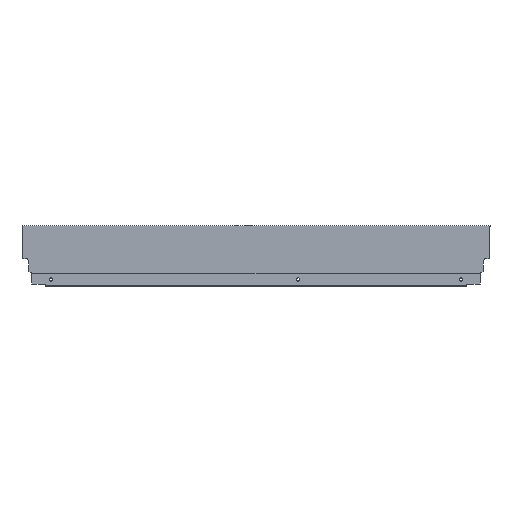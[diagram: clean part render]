
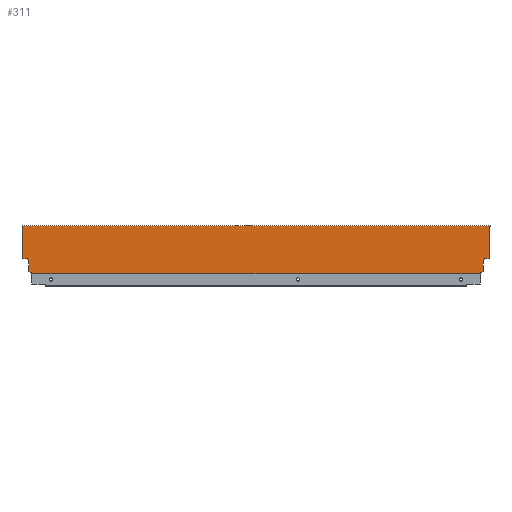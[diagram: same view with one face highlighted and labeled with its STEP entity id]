
A CAD part, top view. The second image highlights one B-rep face of the part: STEP entity #311.
In plain terms, the highlighted planar face has unit normal (0, 0, 1).
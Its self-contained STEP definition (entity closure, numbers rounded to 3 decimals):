
#4 = VERTEX_POINT ( 'NONE', #577 ) ;
#9 = VERTEX_POINT ( 'NONE', #575 ) ;
#43 = ORIENTED_EDGE ( 'NONE', *, *, #1090, .F. ) ;
#44 = ORIENTED_EDGE ( 'NONE', *, *, #1092, .F. ) ;
#55 = ORIENTED_EDGE ( 'NONE', *, *, #1085, .F. ) ;
#56 = ORIENTED_EDGE ( 'NONE', *, *, #1086, .F. ) ;
#70 = ORIENTED_EDGE ( 'NONE', *, *, #1095, .F. ) ;
#73 = EDGE_LOOP ( 'NONE', ( #136, #140, #190, #117, #70, #211, #145, #137, #80, #88, #143, #55, #44, #43, #111, #123, #56, #78 ) ) ;
#78 = ORIENTED_EDGE ( 'NONE', *, *, #1084, .F. ) ;
#80 = ORIENTED_EDGE ( 'NONE', *, *, #1089, .F. ) ;
#88 = ORIENTED_EDGE ( 'NONE', *, *, #1099, .T. ) ;
#111 = ORIENTED_EDGE ( 'NONE', *, *, #1088, .F. ) ;
#117 = ORIENTED_EDGE ( 'NONE', *, *, #1096, .T. ) ;
#123 = ORIENTED_EDGE ( 'NONE', *, *, #1043, .F. ) ;
#136 = ORIENTED_EDGE ( 'NONE', *, *, #1093, .F. ) ;
#137 = ORIENTED_EDGE ( 'NONE', *, *, #1094, .F. ) ;
#140 = ORIENTED_EDGE ( 'NONE', *, *, #1098, .F. ) ;
#143 = ORIENTED_EDGE ( 'NONE', *, *, #1087, .F. ) ;
#145 = ORIENTED_EDGE ( 'NONE', *, *, #1091, .F. ) ;
#190 = ORIENTED_EDGE ( 'NONE', *, *, #1097, .T. ) ;
#211 = ORIENTED_EDGE ( 'NONE', *, *, #1102, .F. ) ;
#311 = ADVANCED_FACE ( 'NONE', ( #357 ), #536, .T. ) ;
#357 = FACE_OUTER_BOUND ( 'NONE', #73, .T. ) ;
#526 = DIRECTION ( 'NONE',  ( 1., 0., 0. ) ) ;
#527 = DIRECTION ( 'NONE',  ( 0., 0., 1. ) ) ;
#533 = CARTESIAN_POINT ( 'NONE',  ( -663., 0., 7.5 ) ) ;
#536 = PLANE ( 'NONE',  #1182 ) ;
#575 = CARTESIAN_POINT ( 'NONE',  ( 0., 21.2, 7.5 ) ) ;
#577 = CARTESIAN_POINT ( 'NONE',  ( 0., 66.5, 7.5 ) ) ;
#592 = VERTEX_POINT ( 'NONE', #1292 ) ;
#601 = VERTEX_POINT ( 'NONE', #1301 ) ;
#615 = VERTEX_POINT ( 'NONE', #1315 ) ;
#618 = VERTEX_POINT ( 'NONE', #1318 ) ;
#630 = VERTEX_POINT ( 'NONE', #1330 ) ;
#634 = VERTEX_POINT ( 'NONE', #1334 ) ;
#635 = VERTEX_POINT ( 'NONE', #1335 ) ;
#636 = VERTEX_POINT ( 'NONE', #1336 ) ;
#637 = VERTEX_POINT ( 'NONE', #1337 ) ;
#645 = VERTEX_POINT ( 'NONE', #1345 ) ;
#649 = VERTEX_POINT ( 'NONE', #1349 ) ;
#651 = VERTEX_POINT ( 'NONE', #1351 ) ;
#653 = VERTEX_POINT ( 'NONE', #1353 ) ;
#656 = VERTEX_POINT ( 'NONE', #1355 ) ;
#657 = VERTEX_POINT ( 'NONE', #1356 ) ;
#659 = VERTEX_POINT ( 'NONE', #1358 ) ;
#755 = LINE ( 'NONE', #1491, #797 ) ;
#768 = VECTOR ( 'NONE', #1504, 1000. ) ;
#786 = VECTOR ( 'NONE', #1496, 1000. ) ;
#795 = VECTOR ( 'NONE', #1494, 1000. ) ;
#796 = LINE ( 'NONE', #1493, #795 ) ;
#797 = VECTOR ( 'NONE', #1492, 1000. ) ;
#816 = LINE ( 'NONE', #1499, #839 ) ;
#833 = VECTOR ( 'NONE', #1502, 1000. ) ;
#839 = VECTOR ( 'NONE', #1500, 1000. ) ;
#840 = VECTOR ( 'NONE', #1498, 1000. ) ;
#841 = LINE ( 'NONE', #1501, #833 ) ;
#842 = LINE ( 'NONE', #1497, #840 ) ;
#845 = VECTOR ( 'NONE', #1522, 1000. ) ;
#851 = VECTOR ( 'NONE', #1515, 1000. ) ;
#852 = LINE ( 'NONE', #1514, #851 ) ;
#853 = VECTOR ( 'NONE', #1513, 1000. ) ;
#854 = LINE ( 'NONE', #1512, #853 ) ;
#856 = VECTOR ( 'NONE', #1511, 1000. ) ;
#857 = VECTOR ( 'NONE', #1509, 1000. ) ;
#858 = LINE ( 'NONE', #1508, #857 ) ;
#859 = LINE ( 'NONE', #1495, #786 ) ;
#860 = VECTOR ( 'NONE', #1506, 1000. ) ;
#861 = LINE ( 'NONE', #1505, #860 ) ;
#862 = LINE ( 'NONE', #1521, #845 ) ;
#918 = VECTOR ( 'NONE', #1488, 1000. ) ;
#919 = LINE ( 'NONE', #1487, #918 ) ;
#920 = VECTOR ( 'NONE', #1486, 1000. ) ;
#921 = LINE ( 'NONE', #1485, #920 ) ;
#923 = VECTOR ( 'NONE', #1484, 1000. ) ;
#929 = LINE ( 'NONE', #1503, #856 ) ;
#930 = VECTOR ( 'NONE', #1490, 1000. ) ;
#931 = LINE ( 'NONE', #1489, #930 ) ;
#932 = LINE ( 'NONE', #1483, #768 ) ;
#942 = LINE ( 'NONE', #1477, #923 ) ;
#1005 = LINE ( 'NONE', #1386, #1012 ) ;
#1012 = VECTOR ( 'NONE', #1397, 1000. ) ;
#1043 = EDGE_CURVE ( 'NONE', #4, #9, #1005, .T. ) ;
#1084 = EDGE_CURVE ( 'NONE', #653, #601, #942, .T. ) ;
#1085 = EDGE_CURVE ( 'NONE', #659, #651, #921, .T. ) ;
#1086 = EDGE_CURVE ( 'NONE', #601, #4, #919, .T. ) ;
#1087 = EDGE_CURVE ( 'NONE', #651, #656, #931, .T. ) ;
#1088 = EDGE_CURVE ( 'NONE', #9, #592, #755, .T. ) ;
#1089 = EDGE_CURVE ( 'NONE', #636, #635, #796, .T. ) ;
#1090 = EDGE_CURVE ( 'NONE', #592, #630, #859, .T. ) ;
#1091 = EDGE_CURVE ( 'NONE', #645, #657, #842, .T. ) ;
#1092 = EDGE_CURVE ( 'NONE', #630, #659, #816, .T. ) ;
#1093 = EDGE_CURVE ( 'NONE', #615, #653, #841, .T. ) ;
#1094 = EDGE_CURVE ( 'NONE', #635, #645, #932, .T. ) ;
#1095 = EDGE_CURVE ( 'NONE', #649, #618, #861, .T. ) ;
#1096 = EDGE_CURVE ( 'NONE', #637, #618, #858, .T. ) ;
#1097 = EDGE_CURVE ( 'NONE', #634, #637, #929, .T. ) ;
#1098 = EDGE_CURVE ( 'NONE', #634, #615, #854, .T. ) ;
#1099 = EDGE_CURVE ( 'NONE', #636, #656, #852, .T. ) ;
#1102 = EDGE_CURVE ( 'NONE', #657, #649, #862, .T. ) ;
#1182 = AXIS2_PLACEMENT_3D ( 'NONE', #533, #527, #526 ) ;
#1292 = CARTESIAN_POINT ( 'NONE',  ( -7.06, 21.2, 7.5 ) ) ;
#1301 = CARTESIAN_POINT ( 'NONE',  ( 1., 66.5, 7.5 ) ) ;
#1315 = CARTESIAN_POINT ( 'NONE',  ( -664., 68., 7.5 ) ) ;
#1318 = CARTESIAN_POINT ( 'NONE',  ( -663., 21.2, 7.5 ) ) ;
#1330 = CARTESIAN_POINT ( 'NONE',  ( -8.9, 10.765, 7.5 ) ) ;
#1334 = CARTESIAN_POINT ( 'NONE',  ( -664., 66.5, 7.5 ) ) ;
#1335 = CARTESIAN_POINT ( 'NONE',  ( -649.996, 1.146, 7.5 ) ) ;
#1336 = CARTESIAN_POINT ( 'NONE',  ( -649.996, 0., 7.5 ) ) ;
#1337 = CARTESIAN_POINT ( 'NONE',  ( -663., 66.5, 7.5 ) ) ;
#1345 = CARTESIAN_POINT ( 'NONE',  ( -654.1, 2.64, 7.5 ) ) ;
#1349 = CARTESIAN_POINT ( 'NONE',  ( -655.94, 21.2, 7.5 ) ) ;
#1351 = CARTESIAN_POINT ( 'NONE',  ( -13.004, 1.146, 7.5 ) ) ;
#1353 = CARTESIAN_POINT ( 'NONE',  ( 1., 68., 7.5 ) ) ;
#1355 = CARTESIAN_POINT ( 'NONE',  ( -13.004, 0., 7.5 ) ) ;
#1356 = CARTESIAN_POINT ( 'NONE',  ( -654.1, 10.765, 7.5 ) ) ;
#1358 = CARTESIAN_POINT ( 'NONE',  ( -8.9, 2.64, 7.5 ) ) ;
#1386 = CARTESIAN_POINT ( 'NONE',  ( 0., 0., 7.5 ) ) ;
#1397 = DIRECTION ( 'NONE',  ( 0., -1., 0. ) ) ;
#1477 = CARTESIAN_POINT ( 'NONE',  ( 1., 68., 7.5 ) ) ;
#1483 = CARTESIAN_POINT ( 'NONE',  ( -654.1, 2.64, 7.5 ) ) ;
#1484 = DIRECTION ( 'NONE',  ( 0., -1., 0. ) ) ;
#1485 = CARTESIAN_POINT ( 'NONE',  ( -8.9, 2.64, 7.5 ) ) ;
#1486 = DIRECTION ( 'NONE',  ( -0.94, -0.342, 0. ) ) ;
#1487 = CARTESIAN_POINT ( 'NONE',  ( 1., 66.5, 7.5 ) ) ;
#1488 = DIRECTION ( 'NONE',  ( -1., 0., 0. ) ) ;
#1489 = CARTESIAN_POINT ( 'NONE',  ( -13.004, 1.146, 7.5 ) ) ;
#1490 = DIRECTION ( 'NONE',  ( 0., -1., 0. ) ) ;
#1491 = CARTESIAN_POINT ( 'NONE',  ( 0., 21.2, 7.5 ) ) ;
#1492 = DIRECTION ( 'NONE',  ( -1., 0., 0. ) ) ;
#1493 = CARTESIAN_POINT ( 'NONE',  ( -649.996, 1.146, 7.5 ) ) ;
#1494 = DIRECTION ( 'NONE',  ( 0., 1., 0. ) ) ;
#1495 = CARTESIAN_POINT ( 'NONE',  ( -7.06, 21.2, 7.5 ) ) ;
#1496 = DIRECTION ( 'NONE',  ( -0.174, -0.985, 0. ) ) ;
#1497 = CARTESIAN_POINT ( 'NONE',  ( -654.1, 10.765, 7.5 ) ) ;
#1498 = DIRECTION ( 'NONE',  ( 0., 1., 0. ) ) ;
#1499 = CARTESIAN_POINT ( 'NONE',  ( -8.9, 10.765, 7.5 ) ) ;
#1500 = DIRECTION ( 'NONE',  ( 0., -1., 0. ) ) ;
#1501 = CARTESIAN_POINT ( 'NONE',  ( -663., 68., 7.5 ) ) ;
#1502 = DIRECTION ( 'NONE',  ( 1., 0., 0. ) ) ;
#1503 = CARTESIAN_POINT ( 'NONE',  ( -664., 66.5, 7.5 ) ) ;
#1504 = DIRECTION ( 'NONE',  ( -0.94, 0.342, 0. ) ) ;
#1505 = CARTESIAN_POINT ( 'NONE',  ( -668., 21.2, 7.5 ) ) ;
#1506 = DIRECTION ( 'NONE',  ( -1., 0., 0. ) ) ;
#1508 = CARTESIAN_POINT ( 'NONE',  ( -663., 0., 7.5 ) ) ;
#1509 = DIRECTION ( 'NONE',  ( 0., -1., 0. ) ) ;
#1511 = DIRECTION ( 'NONE',  ( 1., 0., 0. ) ) ;
#1512 = CARTESIAN_POINT ( 'NONE',  ( -664., 66.5, 7.5 ) ) ;
#1513 = DIRECTION ( 'NONE',  ( 0., 1., 0. ) ) ;
#1514 = CARTESIAN_POINT ( 'NONE',  ( -663., 0., 7.5 ) ) ;
#1515 = DIRECTION ( 'NONE',  ( 1., 0., 0. ) ) ;
#1521 = CARTESIAN_POINT ( 'NONE',  ( -655.94, 21.2, 7.5 ) ) ;
#1522 = DIRECTION ( 'NONE',  ( -0.174, 0.985, 0. ) ) ;
